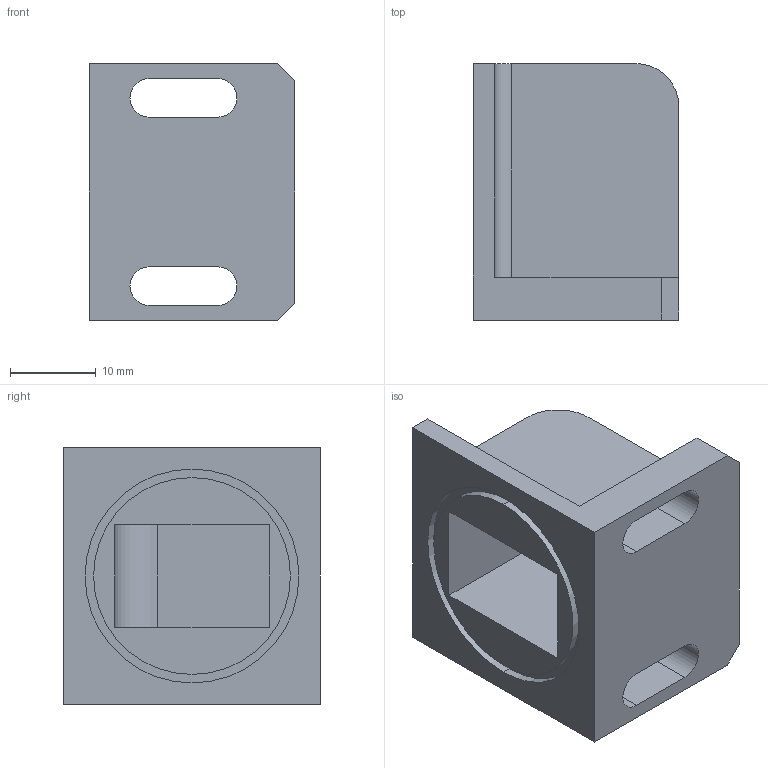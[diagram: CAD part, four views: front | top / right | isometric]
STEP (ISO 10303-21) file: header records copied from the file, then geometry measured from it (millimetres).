
FILE_DESCRIPTION (( 'STEP AP203' ), '1' );
FILE_NAME ('F038102.STEP', '2018-02-27T09:48:29', ( '' ), ( '' ), 'SwSTEP 2.0', 'SolidWorks 2016', '' );
FILE_SCHEMA (( 'CONFIG_CONTROL_DESIGN' ));
Length unit declared in the file: millimetre
Products named in the file (1): F038102
Bounding box: 24 x 30 x 30 mm (x, y, z)
Volume: 8097.7 mm3; surface area: 5984.7 mm2
Topology: 1 solids, 1 shells, 37 faces, 96 edges, 64 vertices
Faces by surface type: plane 25, cylinder 12
Entity records: 1219 total; most frequent: CARTESIAN_POINT 198, DIRECTION 196, ORIENTED_EDGE 192, EDGE_CURVE 96, LINE 72, VECTOR 72, VERTEX_POINT 64, AXIS2_PLACEMENT_3D 62
